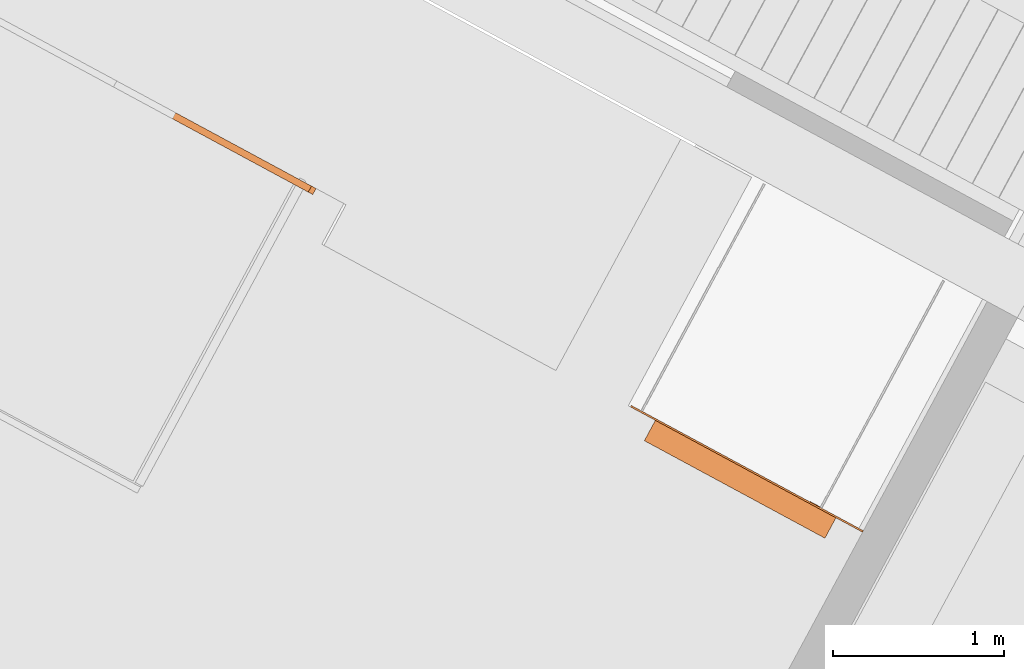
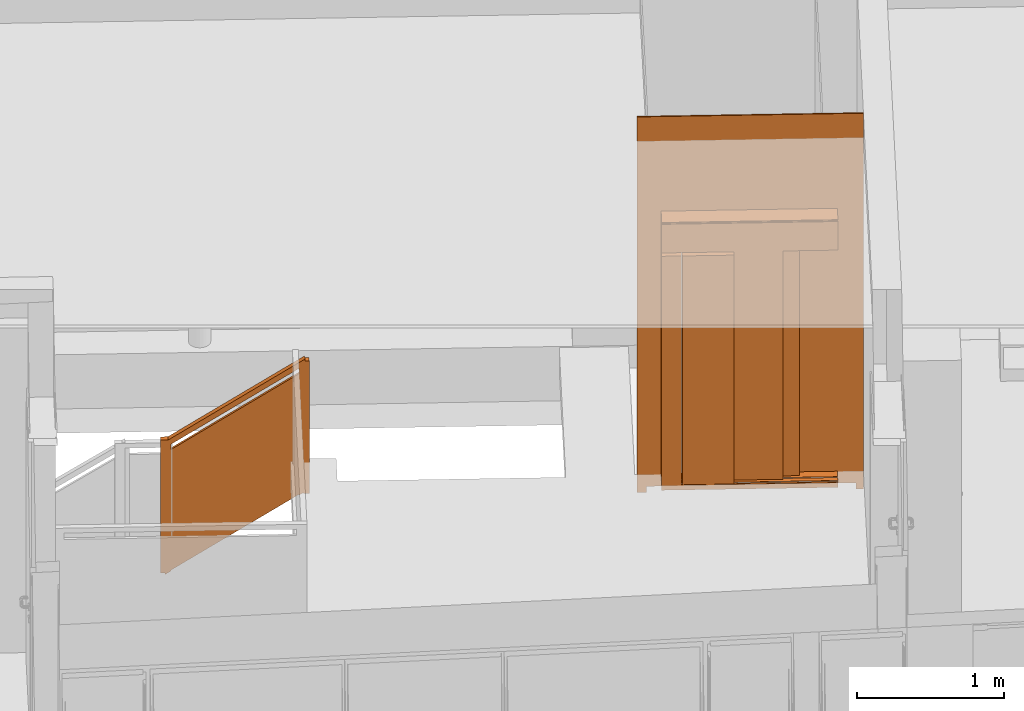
# One storey, part 44 of 48: 3 proxies, 1 opening.
"""IFC2X3 building model written with IfcOpenShell, lengths in metres."""

from ifc_helpers import new_model, entity, si_unit, converted_unit, derived_unit, money_unit, direction, frame, origin_with_axes, origin_2d_with_axis, place, context, subcontext, project, spatial, rectangle, extrude, open_shell, faceted_brep, surface_model, material, material_list, type_object, element, fill, save


model = new_model("IFC2X3")

# Units and contexts
model_context = context("Model", 3, precision=1e-05, world=origin_with_axes(), true_north=direction((0.0, 1.0)))
body_context = subcontext(model_context, "Body", "Model", "MODEL_VIEW")
ifc_project = project(units=[si_unit("LENGTHUNIT", "METRE"), si_unit("AREAUNIT", "SQUARE_METRE"), si_unit("VOLUMEUNIT", "CUBIC_METRE"), converted_unit("PLANEANGLEUNIT", "DEGREE", entity("IfcPlaneAngleMeasure", 0.0174532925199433), si_unit("PLANEANGLEUNIT", "RADIAN"), dimensions=[0, 0, 0, 0, 0, 0, 0]), money_unit("EUR"), converted_unit("TIMEUNIT", "Year", entity("IfcTimeMeasure", 31556926.0), si_unit("TIMEUNIT", "SECOND"), dimensions=[0, 0, 1, 0, 0, 0, 0]), si_unit("MASSUNIT", "GRAM", prefix="KILO"), si_unit("THERMODYNAMICTEMPERATUREUNIT", "DEGREE_CELSIUS"), si_unit("LUMINOUSINTENSITYUNIT", "LUMEN"), si_unit("ENERGYUNIT", "JOULE", prefix="MEGA"), derived_unit("THERMALCONDUCTANCEUNIT", [(si_unit("POWERUNIT", "WATT"), 1), (si_unit("LENGTHUNIT", "METRE"), -1), (si_unit("THERMODYNAMICTEMPERATUREUNIT", "KELVIN"), -1)]), derived_unit("SPECIFICHEATCAPACITYUNIT", [(si_unit("ENERGYUNIT", "JOULE"), 1), (si_unit("MASSUNIT", "GRAM", prefix="KILO"), -1), (si_unit("THERMODYNAMICTEMPERATUREUNIT", "KELVIN"), -1)]), derived_unit("MASSDENSITYUNIT", [(si_unit("MASSUNIT", "GRAM", prefix="KILO"), 1), (si_unit("VOLUMEUNIT", "CUBIC_METRE"), -1)])], contexts=[model_context])

# Site, building, storey
site_placement = place(None, frame((-3.949935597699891, 1.740105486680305, 0.0), z_axis=(0.0, 0.0, 1.0), x_axis=(0.8799804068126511, -0.475009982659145, 0.0)))
site = spatial("IfcSite", under=ifc_project, at=site_placement, Name="Gelände", CompositionType="ELEMENT")
building_placement = place(site_placement, origin_with_axes())
building = spatial("IfcBuilding", under=site, at=building_placement, Name="Gebäude", CompositionType="ELEMENT")
storey_placement = place(building_placement, frame((0.0, 0.0, 4.55), z_axis=(0.0, 0.0, 1.0), x_axis=(1.0, 0.0, 0.0)))
storey = spatial("IfcBuildingStorey", under=building, at=storey_placement, Name="Staffelgeschoss", CompositionType="ELEMENT", Elevation=4.55)

# Proxies, opening
ifc_material_1 = material(Name="Glas, Normalglas")
building_element_proxy_type_1 = type_object("IfcBuildingElementProxyType", Name="Glas, Normalglas 10", PredefinedType="NOTDEFINED")
proxy_1_placement = place(storey_placement, frame((15.62880693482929, 9.127799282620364, -0.1500000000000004), z_axis=(0.0, 0.0, 1.0), x_axis=(0.9999999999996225, 8.689518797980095e-07, 0.0)))
proxy_1 = element("IfcBuildingElementProxy", 1, at=proxy_1_placement, inside=storey, type_object=building_element_proxy_type_1, material=ifc_material_1, Name="I-Wand037", context=body_context, shape_type="Brep", body=[
    faceted_brep([(0.0636884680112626, 3.474075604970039e-08, 0.05000000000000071), (1.488486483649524, -1.203340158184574e-06, 0.05000000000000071), (1.488486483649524, -1.203340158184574e-06, 0.0), (1.538686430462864, -1.337044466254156e-06, 0.0), (1.538686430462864, -1.337044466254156e-06, 3.114), (0.0, 0.0, 3.114), (0.0, 0.0, 0.0), (0.06368846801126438, 3.474075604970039e-08, 0.0), (0.184239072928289, -1.600948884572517e-07, 0.1500000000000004), (0.184239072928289, -1.600948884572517e-07, 2.2), (1.084239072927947, -9.421515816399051e-07, 2.2), (1.084239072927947, -9.421515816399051e-07, 0.1500000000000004), (0.06368847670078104, 0.01000003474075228, 0.05000000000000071), (1.488486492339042, 0.00999879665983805, 0.05000000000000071), (1.488486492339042, 0.00999879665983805, 0.0), (1.538686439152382, 0.00999866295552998, 0.0), (1.538686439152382, 0.00999866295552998, 3.114), (8.689518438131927e-09, 0.009999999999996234, 3.114), (8.689518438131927e-09, 0.009999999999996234, 0.0), (0.06368847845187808, 0.01000003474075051, 0.0), (0.1842390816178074, 0.009999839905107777, 0.1500000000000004), (0.1842390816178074, 0.009999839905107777, 2.2), (1.084239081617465, 0.009999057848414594, 2.2), (1.084239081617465, 0.009999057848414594, 0.1500000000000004)], [[[0, 1, 2, 3, 4, 5, 6, 7], [8, 9, 10, 11]], [[0, 12, 13, 1]], [[1, 13, 14, 2]], [[3, 2, 14, 15]], [[16, 4, 3, 15]], [[4, 16, 17, 5]], [[5, 17, 18, 6]], [[18, 19, 7, 6]], [[7, 19, 12, 0]], [[20, 21, 9, 8]], [[21, 22, 10, 9]], [[22, 23, 11, 10]], [[23, 20, 8, 11]], [[13, 12, 19, 18, 17, 16, 15, 14], [20, 23, 22, 21]]]),
])
opening_placement = place(proxy_1_placement, frame((0.6342390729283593, 0.0, 0.1500000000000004), z_axis=(0.0, 0.0, 1.0), x_axis=(1.0, 0.0, 0.0)))
opening = element("IfcOpeningElement", 2, at=opening_placement, cuts=proxy_1, Name="Tür-011", context=body_context, shape_type="SweptSolid", body=[
    extrude(rectangle(XDim=0.9000000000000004, YDim=2.05, at=origin_2d_with_axis()), frame((8.689756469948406e-09, 0.009999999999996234, 1.024999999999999), z_axis=(8.689518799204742e-07, 0.9999999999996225, 0.0), x_axis=(0.9999999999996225, -8.689518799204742e-07, 0.0)), (0.0, 0.0, -1.0), 0.03),
])
building_element_proxy_type_2 = type_object("IfcBuildingElementProxyType", Name="Teleskoptür 22", PredefinedType="NOTDEFINED")
proxy_2_placement = place(opening_placement, frame((0.4499999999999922, 0.0, 0.0), z_axis=(0.0, 0.0, 1.0), x_axis=(-1.0, 0.0, 0.0)))
proxy_2 = element("IfcBuildingElementProxy", 3, at=proxy_2_placement, inside=storey, type_object=building_element_proxy_type_2, Name="Tür-011", context=body_context, shape_type="SurfaceModel", body=[
    faceted_brep([(-0.2774999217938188, 0.09000118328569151, 1.899999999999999), (-0.2774999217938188, 0.09000118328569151, 1.938), (0.9200000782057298, 0.09000014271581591, 1.938), (0.9200000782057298, 0.09000014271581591, 1.899999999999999), (-0.2774999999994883, 1.183285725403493e-06, 1.899999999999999), (-0.2774999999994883, 1.183285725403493e-06, 2.18), (-0.2774998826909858, 0.1350011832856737, 2.18), (-0.2774998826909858, 0.1350011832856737, 2.177), (-0.2774999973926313, 0.003001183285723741, 2.177), (-0.2774999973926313, 0.003001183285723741, 1.903), (-0.2774999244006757, 0.0870011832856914, 1.903), (-0.2774999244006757, 0.0870011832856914, 1.938), (0.9200000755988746, 0.0870001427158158, 1.938), (0.9200000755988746, 0.0870001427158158, 1.903), (0.9200000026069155, 0.003000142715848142, 1.903), (0.9200000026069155, 0.003000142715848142, 2.177), (0.9200001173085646, 0.1350001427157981, 2.177), (0.9200001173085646, 0.1350001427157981, 2.18), (0.9200000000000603, 1.42715849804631e-07, 2.18), (0.9200000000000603, 1.42715849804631e-07, 1.899999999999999)], [[[0, 1, 2, 3]], [[0, 4, 5, 6, 7, 8, 9, 10, 11, 1]], [[1, 11, 12, 2]], [[3, 2, 12, 13, 14, 15, 16, 17, 18, 19]], [[4, 0, 3, 19]], [[5, 4, 19, 18]], [[6, 5, 18, 17]], [[7, 6, 17, 16]], [[8, 7, 16, 15]], [[9, 8, 15, 14]], [[10, 9, 14, 13]], [[11, 10, 13, 12]]]),
    faceted_brep([(-0.2774999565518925, 0.05000118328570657, 1.903), (-0.2774999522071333, 0.0550011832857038, 1.903), (0.9200000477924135, 0.0550001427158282, 1.903), (0.9200000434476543, 0.0500001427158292, 1.903), (-0.2774999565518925, 0.05000118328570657, 2.14), (-0.2774999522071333, 0.0550011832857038, 2.14), (0.9200000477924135, 0.0550001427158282, 2.14), (0.9200000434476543, 0.0500001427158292, 2.14)], [[[0, 1, 2, 3]], [[0, 4, 5, 1]], [[1, 5, 6, 2]], [[3, 2, 6, 7]], [[4, 0, 3, 7]], [[5, 4, 7, 6]]]),
    faceted_brep([(-0.2774999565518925, 0.05000118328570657, 2.13), (-0.2774999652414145, 0.04000118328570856, 2.13), (0.9200000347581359, 0.04000014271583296, 2.13), (0.9200000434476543, 0.0500001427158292, 2.13), (-0.2774999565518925, 0.05000118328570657, 2.069999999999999), (-0.2774999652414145, 0.04000118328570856, 2.069999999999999), (0.9200000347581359, 0.04000014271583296, 2.069999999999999), (0.9200000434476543, 0.0500001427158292, 2.069999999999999)], [[[0, 1, 2, 3]], [[0, 4, 5, 1]], [[1, 5, 6, 2]], [[3, 2, 6, 7]], [[4, 0, 3, 7]], [[5, 4, 7, 6]]]),
    faceted_brep([(-0.2774999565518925, 0.05000118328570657, 2.0), (-0.2774999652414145, 0.04000118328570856, 2.0), (0.9200000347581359, 0.04000014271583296, 2.0), (0.9200000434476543, 0.0500001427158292, 2.0), (-0.2774999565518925, 0.05000118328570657, 1.96), (-0.2774999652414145, 0.04000118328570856, 1.96), (0.9200000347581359, 0.04000014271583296, 1.96), (0.9200000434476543, 0.0500001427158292, 1.96)], [[[0, 1, 2, 3]], [[0, 4, 5, 1]], [[1, 5, 6, 2]], [[3, 2, 6, 7]], [[4, 0, 3, 7]], [[5, 4, 7, 6]]]),
    faceted_brep([(-0.2774999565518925, 0.05000118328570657, 2.069999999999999), (-0.277499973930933, 0.03000118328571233, 2.069999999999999), (0.9200000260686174, 0.03000014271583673, 2.069999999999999), (0.9200000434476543, 0.0500001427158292, 2.069999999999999), (-0.2774999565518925, 0.05000118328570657, 2.0), (-0.277499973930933, 0.03000118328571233, 2.0), (0.9200000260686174, 0.03000014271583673, 2.0), (0.9200000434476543, 0.0500001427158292, 2.0)], [[[0, 1, 2, 3]], [[0, 4, 5, 1]], [[1, 5, 6, 2]], [[3, 2, 6, 7]], [[4, 0, 3, 7]], [[5, 4, 7, 6]]]),
    faceted_brep([(-0.2774999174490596, 0.09500118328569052, 1.903), (-0.2774999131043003, 0.1000011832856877, 1.903), (0.9200000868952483, 0.1000001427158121, 1.903), (0.920000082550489, 0.09500014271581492, 1.903), (-0.2774999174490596, 0.09500118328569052, 2.14), (-0.2774999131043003, 0.1000011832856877, 2.14), (0.9200000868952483, 0.1000001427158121, 2.14), (0.920000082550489, 0.09500014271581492, 2.14)], [[[0, 1, 2, 3]], [[0, 4, 5, 1]], [[1, 5, 6, 2]], [[3, 2, 6, 7]], [[4, 0, 3, 7]], [[5, 4, 7, 6]]]),
    faceted_brep([(-0.2774999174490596, 0.09500118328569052, 2.13), (-0.277499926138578, 0.0850011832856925, 2.13), (0.9200000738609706, 0.0850001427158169, 2.13), (0.920000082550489, 0.09500014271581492, 2.13), (-0.2774999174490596, 0.09500118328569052, 2.069999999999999), (-0.277499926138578, 0.0850011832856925, 2.069999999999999), (0.9200000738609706, 0.0850001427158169, 2.069999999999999), (0.920000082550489, 0.09500014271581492, 2.069999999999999)], [[[0, 1, 2, 3]], [[0, 4, 5, 1]], [[1, 5, 6, 2]], [[3, 2, 6, 7]], [[4, 0, 3, 7]], [[5, 4, 7, 6]]]),
    faceted_brep([(-0.2774999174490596, 0.09500118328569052, 2.0), (-0.277499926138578, 0.0850011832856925, 2.0), (0.9200000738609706, 0.0850001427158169, 2.0), (0.920000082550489, 0.09500014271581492, 2.0), (-0.2774999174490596, 0.09500118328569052, 1.96), (-0.277499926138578, 0.0850011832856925, 1.96), (0.9200000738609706, 0.0850001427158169, 1.96), (0.920000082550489, 0.09500014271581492, 1.96)], [[[0, 1, 2, 3]], [[0, 4, 5, 1]], [[1, 5, 6, 2]], [[3, 2, 6, 7]], [[4, 0, 3, 7]], [[5, 4, 7, 6]]]),
    faceted_brep([(-0.2774999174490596, 0.09500118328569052, 2.069999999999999), (-0.2774999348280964, 0.07500118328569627, 2.069999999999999), (0.9200000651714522, 0.07500014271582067, 2.069999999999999), (0.920000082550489, 0.09500014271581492, 2.069999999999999), (-0.2774999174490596, 0.09500118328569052, 2.0), (-0.2774999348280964, 0.07500118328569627, 2.0), (0.9200000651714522, 0.07500014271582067, 2.0), (0.920000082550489, 0.09500014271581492, 2.0)], [[[0, 1, 2, 3]], [[0, 4, 5, 1]], [[1, 5, 6, 2]], [[3, 2, 6, 7]], [[4, 0, 3, 7]], [[5, 4, 7, 6]]]),
    faceted_brep([(-0.2774999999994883, 1.183285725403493e-06, 0.0), (-0.2774999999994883, 1.183285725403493e-06, -0.04000000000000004), (0.9200000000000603, 1.42715849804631e-07, -0.04000000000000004), (0.9200000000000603, 1.42715849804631e-07, 0.0), (-0.2774999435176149, 0.06500118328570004, 0.0), (-0.2774999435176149, 0.06500118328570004, -0.009999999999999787), (-0.2774999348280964, 0.07500118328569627, -0.009999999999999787), (-0.2774999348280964, 0.07500118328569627, 0.0), (-0.2774999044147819, 0.1100011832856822, 0.0), (-0.2774999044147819, 0.1100011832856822, -0.009999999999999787), (-0.2774998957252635, 0.1200011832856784, -0.009999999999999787), (-0.2774998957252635, 0.1200011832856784, 0.0), (-0.2774998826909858, 0.1350011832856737, 0.0), (-0.2774998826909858, 0.1350011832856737, -0.04000000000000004), (0.9200001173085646, 0.1350001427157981, -0.04000000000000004), (0.9200001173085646, 0.1350001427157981, 0.0), (0.9200001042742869, 0.1200001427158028, 0.0), (0.9200001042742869, 0.1200001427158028, -0.009999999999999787), (0.9200000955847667, 0.1100001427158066, -0.009999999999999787), (0.9200000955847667, 0.1100001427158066, 0.0), (0.9200000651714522, 0.07500014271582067, 0.0), (0.9200000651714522, 0.07500014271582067, -0.009999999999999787), (0.920000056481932, 0.06500014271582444, -0.009999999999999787), (0.920000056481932, 0.06500014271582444, 0.0)], [[[0, 1, 2, 3]], [[0, 4, 5, 6, 7, 8, 9, 10, 11, 12, 13, 1]], [[1, 13, 14, 2]], [[3, 2, 14, 15, 16, 17, 18, 19, 20, 21, 22, 23]], [[4, 0, 3, 23]], [[5, 4, 23, 22]], [[6, 5, 22, 21]], [[7, 6, 21, 20]], [[8, 7, 20, 19]], [[9, 8, 19, 18]], [[10, 9, 18, 17]], [[11, 10, 17, 16]], [[12, 11, 16, 15]], [[13, 12, 15, 14]]]),
    faceted_brep([(0.1150000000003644, 8.422221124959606e-07, 0.0), (0.1150000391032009, 0.04500084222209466, 0.0), (0.1150000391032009, 0.04500084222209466, 1.899999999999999), (0.1150000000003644, 8.422221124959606e-07, 1.899999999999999), (-0.01999999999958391, 9.59530616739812e-07, 0.0), (-0.01999996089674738, 0.04500095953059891, 0.0), (-0.01999996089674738, 0.04500095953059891, 1.899999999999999), (-0.01999999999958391, 9.59530616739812e-07, 1.899999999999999)], [[[0, 1, 2, 3]], [[0, 4, 5, 1]], [[1, 5, 6, 2]], [[3, 2, 6, 7]], [[4, 0, 3, 7]], [[5, 4, 7, 6]]]),
    faceted_brep([(0.9200000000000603, 1.42715849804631e-07, 0.0), (0.9200001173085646, 0.1350001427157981, 0.0), (0.9200001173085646, 0.1350001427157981, 1.899999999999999), (0.9200000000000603, 1.42715849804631e-07, 1.899999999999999), (0.785000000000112, 2.600243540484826e-07, 0.0), (0.7850001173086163, 0.1350002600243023, 0.0), (0.7850001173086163, 0.1350002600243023, 1.899999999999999), (0.785000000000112, 2.600243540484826e-07, 1.899999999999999)], [[[0, 1, 2, 3]], [[0, 4, 5, 1]], [[1, 5, 6, 2]], [[3, 2, 6, 7]], [[4, 0, 3, 7]], [[5, 4, 7, 6]]]),
    faceted_brep([(-0.1800000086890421, -0.009998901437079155, 0.7999999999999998), (-0.1000000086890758, -0.009998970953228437, 0.7999999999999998), (-0.1000000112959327, -0.01299897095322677, 0.7999999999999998), (-0.180000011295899, -0.01299890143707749, 0.7999999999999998), (-0.1800000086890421, -0.009998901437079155, 1.06), (-0.1000000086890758, -0.009998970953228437, 1.06), (-0.1700000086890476, -0.009998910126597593, 1.03), (-0.1700000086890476, -0.009998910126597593, 0.9400000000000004), (-0.1100000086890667, -0.009998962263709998, 0.9400000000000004), (-0.1100000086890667, -0.009998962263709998, 1.03), (-0.1500000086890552, -0.00999892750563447, 0.8399999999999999), (-0.1300000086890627, -0.009998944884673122, 0.8399999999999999), (-0.1300000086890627, -0.009998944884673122, 0.8600000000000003), (-0.1500000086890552, -0.00999892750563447, 0.8600000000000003), (-0.1500000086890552, -0.00999892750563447, 0.8799999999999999), (-0.1300000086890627, -0.009998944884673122, 0.8799999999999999), (-0.1300000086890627, -0.009998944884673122, 0.9000000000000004), (-0.1500000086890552, -0.00999892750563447, 0.9000000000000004), (-0.1000000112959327, -0.01299897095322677, 1.06), (-0.180000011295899, -0.01299890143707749, 1.06), (-0.1700000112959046, -0.01299891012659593, 1.03), (-0.1100000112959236, -0.01299896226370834, 1.03), (-0.1100000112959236, -0.01299896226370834, 0.9400000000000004), (-0.1700000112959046, -0.01299891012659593, 0.9400000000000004), (-0.1500000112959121, -0.01299892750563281, 0.8399999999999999), (-0.1500000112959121, -0.01299892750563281, 0.8600000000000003), (-0.1300000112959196, -0.01299894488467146, 0.8600000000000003), (-0.1300000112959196, -0.01299894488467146, 0.8399999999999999), (-0.1500000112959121, -0.01299892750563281, 0.8799999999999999), (-0.1500000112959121, -0.01299892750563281, 0.9000000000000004), (-0.1300000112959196, -0.01299894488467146, 0.9000000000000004), (-0.1300000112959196, -0.01299894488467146, 0.8799999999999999)], [[[0, 1, 2, 3]], [[0, 4, 5, 1], [6, 7, 8, 9], [10, 11, 12, 13], [14, 15, 16, 17]], [[1, 5, 18, 2]], [[3, 2, 18, 19], [20, 21, 22, 23], [24, 25, 26, 27], [28, 29, 30, 31]], [[4, 0, 3, 19]], [[5, 4, 19, 18]], [[7, 6, 20, 23]], [[8, 7, 23, 22]], [[9, 8, 22, 21]], [[6, 9, 21, 20]], [[11, 10, 24, 27]], [[12, 11, 27, 26]], [[13, 12, 26, 25]], [[10, 13, 25, 24]], [[15, 14, 28, 31]], [[16, 15, 31, 30]], [[17, 16, 30, 29]], [[14, 17, 29, 28]]]),
    faceted_brep([(-0.1700000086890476, -0.009998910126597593, 0.9400000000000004), (-0.1100000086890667, -0.009998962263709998, 0.9400000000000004), (-0.1100000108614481, -0.0124989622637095, 0.9400000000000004), (-0.170000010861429, -0.0124989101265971, 0.9400000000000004), (-0.1700000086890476, -0.009998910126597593, 1.03), (-0.1100000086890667, -0.009998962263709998, 1.03), (-0.1100000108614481, -0.0124989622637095, 1.03), (-0.170000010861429, -0.0124989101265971, 1.03)], [[[0, 1, 2, 3]], [[0, 4, 5, 1]], [[1, 5, 6, 2]], [[3, 2, 6, 7]], [[4, 0, 3, 7]], [[5, 4, 7, 6]]]),
    surface_model("IfcShellBasedSurfaceModel", [(-0.1560000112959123, -0.01299892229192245, 1.005), (-0.1500000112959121, -0.01299892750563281, 1.021), (-0.1440000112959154, -0.01299893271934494, 1.005)], [open_shell([[[0, 1, 2]]])]),
    surface_model("IfcShellBasedSurfaceModel", [(-0.1300000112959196, -0.01299894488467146, 1.005), (-0.1360000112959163, -0.01299893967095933, 1.021), (-0.124000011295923, -0.01299895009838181, 1.021)], [open_shell([[[0, 1, 2]]])]),
    surface_model("IfcShellBasedSurfaceModel", [(-0.1427272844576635, -0.013498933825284, 0.9820000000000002), (-0.1427272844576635, -0.013498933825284, 0.9716363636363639), (-0.1440909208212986, -0.01349893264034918, 0.9702727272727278), (-0.1454545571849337, -0.01349893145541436, 0.9716363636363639), (-0.1454545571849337, -0.01349893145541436, 0.9820000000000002), (-0.1440909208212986, -0.01349893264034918, 0.9833636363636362)], [open_shell([[[0, 1, 2, 3, 4, 5]]])]),
    surface_model("IfcShellBasedSurfaceModel", [(-0.1427272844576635, -0.013498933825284, 0.9683636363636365), (-0.1427272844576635, -0.013498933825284, 0.9580000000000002), (-0.1440909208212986, -0.01349893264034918, 0.9566363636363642), (-0.1454545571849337, -0.01349893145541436, 0.9580000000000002), (-0.1454545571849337, -0.01349893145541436, 0.9683636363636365), (-0.1440909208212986, -0.01349893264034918, 0.9697272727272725)], [open_shell([[[0, 1, 2, 3, 4, 5]]])]),
    surface_model("IfcShellBasedSurfaceModel", [(-0.1239091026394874, -0.01349895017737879, 0.9822727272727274), (-0.1342727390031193, -0.01349894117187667, 0.9822727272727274), (-0.135636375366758, -0.01349893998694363, 0.9836363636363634), (-0.1342727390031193, -0.01349894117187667, 0.9850000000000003), (-0.1239091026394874, -0.01349895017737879, 0.9850000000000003), (-0.1225454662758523, -0.0134989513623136, 0.9836363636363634)], [open_shell([[[0, 1, 2, 3, 4, 5]]])]),
    surface_model("IfcShellBasedSurfaceModel", [(-0.1209091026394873, -0.01349895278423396, 0.9820000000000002), (-0.1209091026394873, -0.01349895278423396, 0.9716363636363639), (-0.122272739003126, -0.01349895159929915, 0.9702727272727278), (-0.1236363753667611, -0.01349895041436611, 0.9716363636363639), (-0.1236363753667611, -0.01349895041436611, 0.9820000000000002), (-0.122272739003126, -0.01349895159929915, 0.9833636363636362)], [open_shell([[[0, 1, 2, 3, 4, 5]]])]),
    surface_model("IfcShellBasedSurfaceModel", [(-0.1239091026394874, -0.01349895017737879, 0.9686363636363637), (-0.1342727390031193, -0.01349894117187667, 0.9686363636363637), (-0.135636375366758, -0.01349893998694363, 0.9699999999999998), (-0.1342727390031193, -0.01349894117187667, 0.9713636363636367), (-0.1239091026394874, -0.01349895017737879, 0.9713636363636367), (-0.1225454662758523, -0.0134989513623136, 0.9699999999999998)], [open_shell([[[0, 1, 2, 3, 4, 5]]])]),
    surface_model("IfcShellBasedSurfaceModel", [(-0.1345454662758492, -0.01349894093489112, 0.9683636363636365), (-0.1345454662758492, -0.01349894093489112, 0.9580000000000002), (-0.1359091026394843, -0.01349893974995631, 0.9566363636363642), (-0.1372727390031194, -0.01349893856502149, 0.9580000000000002), (-0.1372727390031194, -0.01349893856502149, 0.9683636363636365), (-0.1359091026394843, -0.01349893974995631, 0.9697272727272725)], [open_shell([[[0, 1, 2, 3, 4, 5]]])]),
    surface_model("IfcShellBasedSurfaceModel", [(-0.1239091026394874, -0.01349895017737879, 0.9550000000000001), (-0.1342727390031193, -0.01349894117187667, 0.9550000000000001), (-0.135636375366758, -0.01349893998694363, 0.9563636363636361), (-0.1342727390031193, -0.01349894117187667, 0.957727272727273), (-0.1239091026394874, -0.01349895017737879, 0.957727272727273), (-0.1225454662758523, -0.0134989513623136, 0.9563636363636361)], [open_shell([[[0, 1, 2, 3, 4, 5]]])]),
    faceted_brep([(-0.1300000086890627, -0.009998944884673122, 0.8399999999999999), (-0.1500000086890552, -0.00999892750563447, 0.8399999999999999), (-0.1500000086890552, -0.00999892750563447, 0.8600000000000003), (-0.1300000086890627, -0.009998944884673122, 0.8600000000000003), (-0.1300000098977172, -0.01149894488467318, 0.8399999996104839), (-0.1500000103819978, -0.01149892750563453, 0.8399999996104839), (-0.1500000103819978, -0.01149892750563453, 0.8600000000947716), (-0.1300000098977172, -0.01149894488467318, 0.8600000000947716), (-0.131400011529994, -0.01289894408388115, 0.8414000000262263), (-0.1486000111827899, -0.0128989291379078, 0.8414000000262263), (-0.1486000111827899, -0.0128989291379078, 0.8585999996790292), (-0.131400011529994, -0.01289894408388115, 0.8585999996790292)], [[[0, 1, 2, 3]], [[1, 0, 4, 5]], [[2, 1, 5, 6]], [[3, 2, 6, 7]], [[0, 3, 7, 4]], [[5, 4, 8, 9]], [[6, 5, 9, 10]], [[7, 6, 10, 11]], [[4, 7, 11, 8]], [[10, 9, 8, 11]]]),
    surface_model("IfcShellBasedSurfaceModel", [(-0.1350000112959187, -0.01299894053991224, 0.8550000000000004), (-0.1400000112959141, -0.01299893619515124, 0.8440000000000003), (-0.1450000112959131, -0.01299893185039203, 0.8550000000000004)], [open_shell([[[0, 1, 2]]])]),
    faceted_brep([(-0.1300000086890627, -0.009998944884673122, 0.8799999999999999), (-0.1500000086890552, -0.00999892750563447, 0.8799999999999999), (-0.1500000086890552, -0.00999892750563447, 0.9000000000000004), (-0.1300000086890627, -0.009998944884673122, 0.9000000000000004), (-0.1300000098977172, -0.01149894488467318, 0.8799999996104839), (-0.1500000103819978, -0.01149892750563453, 0.8799999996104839), (-0.1500000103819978, -0.01149892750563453, 0.9000000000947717), (-0.1300000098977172, -0.01149894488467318, 0.9000000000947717), (-0.131400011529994, -0.01289894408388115, 0.8814000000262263), (-0.1486000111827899, -0.0128989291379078, 0.8814000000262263), (-0.1486000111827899, -0.0128989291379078, 0.8985999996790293), (-0.131400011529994, -0.01289894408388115, 0.8985999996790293)], [[[0, 1, 2, 3]], [[1, 0, 4, 5]], [[2, 1, 5, 6]], [[3, 2, 6, 7]], [[0, 3, 7, 4]], [[5, 4, 8, 9]], [[6, 5, 9, 10]], [[7, 6, 10, 11]], [[4, 7, 11, 8]], [[10, 9, 8, 11]]]),
    surface_model("IfcShellBasedSurfaceModel", [(-0.1350000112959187, -0.01299894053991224, 0.8849999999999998), (-0.1450000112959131, -0.01299893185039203, 0.8849999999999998), (-0.1400000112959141, -0.01299893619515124, 0.8959999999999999)], [open_shell([[[0, 1, 2]]])]),
    faceted_brep([(0.4275000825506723, 0.09500057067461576, 0.003000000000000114), (0.427500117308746, 0.1350005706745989, 0.003000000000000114), (0.7800001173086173, 0.1350002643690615, 0.003000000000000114), (0.7800000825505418, 0.09500026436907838, 0.003000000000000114), (0.4275000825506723, 0.09500057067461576, 1.899999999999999), (0.427500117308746, 0.1350005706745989, 1.899999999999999), (0.7800001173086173, 0.1350002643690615, 1.899999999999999), (0.7800000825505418, 0.09500026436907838, 1.899999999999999)], [[[0, 1, 2, 3]], [[4, 5, 1, 0]], [[1, 5, 6, 2]], [[3, 2, 6, 7]], [[0, 3, 7, 4]], [[7, 6, 5, 4]]]),
    faceted_brep([(0.09500004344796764, 0.05000085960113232, 0.003000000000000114), (0.0950000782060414, 0.09000085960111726, 0.003000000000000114), (0.4475000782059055, 0.09000055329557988, 0.003000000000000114), (0.4475000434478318, 0.05000055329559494, 0.003000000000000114), (0.09500004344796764, 0.05000085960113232, 1.899999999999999), (0.0950000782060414, 0.09000085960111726, 1.899999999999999), (0.4475000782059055, 0.09000055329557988, 1.899999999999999), (0.4475000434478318, 0.05000055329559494, 1.899999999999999)], [[[0, 1, 2, 3]], [[4, 5, 1, 0]], [[1, 5, 6, 2]], [[3, 2, 6, 7]], [[0, 3, 7, 4]], [[7, 6, 5, 4]]]),
])
fill(opening, proxy_2)

# Proxy
ifc_material_2 = material(Name="Metall, Stahl lackiert")
ifc_material_3 = material(Name="Glas, Normalglas-50% durchlässig")
ifc_material_list = material_list([ifc_material_2, ifc_material_2, ifc_material_2, ifc_material_2, ifc_material_2, ifc_material_3])
building_element_proxy_type_3 = type_object("IfcBuildingElementProxyType", Name="Geländerart", PredefinedType="NOTDEFINED")
proxy_3_placement = place(storey_placement, frame((12.20061858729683, 9.357791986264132, -0.8980000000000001), z_axis=(0.0, 0.0, 1.0), x_axis=(1.0, 0.0, 0.0)))
element("IfcBuildingElementProxy", 4, at=proxy_3_placement, inside=storey, type_object=building_element_proxy_type_3, material=ifc_material_list, Name="Geländer-005", context=body_context, shape_type="Brep", body=[
    faceted_brep([(0.268580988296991, -0.01999907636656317, 0.01404279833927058), (0.2685791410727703, 0.02000092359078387, 0.01404279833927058), (0.2685791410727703, 0.02000092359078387, 1.114042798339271), (0.268580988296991, -0.01999907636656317, 1.114042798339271), (0.2285809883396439, -0.02000092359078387, -0.01404279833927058), (0.2285791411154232, 0.01999907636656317, -0.01404279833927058), (0.2285791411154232, 0.01999907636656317, 1.085957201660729), (0.2285809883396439, -0.02000092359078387, 1.085957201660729)], [[[0, 1, 2, 3]], [[0, 4, 5, 1]], [[1, 5, 6, 2]], [[3, 2, 6, 7]], [[4, 0, 3, 7]], [[5, 4, 7, 6]]]),
    faceted_brep([(0.2485791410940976, 0.01999999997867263, 1.1), (0.2612195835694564, 0.02000058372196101, 1.06), (0.2385791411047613, 0.0199995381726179, 1.06), (0.2385791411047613, 0.0199995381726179, 0.0), (0.1985791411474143, 0.01999769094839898, 0.0), (0.1985791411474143, 0.01999769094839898, 1.1), (0.2485809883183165, -0.01999999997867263, 1.1), (0.2612214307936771, -0.01999941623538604, 1.06), (0.238580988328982, -0.02000046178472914, 1.06), (0.238580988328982, -0.02000046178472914, 0.0), (0.198580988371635, -0.02000230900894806, 0.0), (0.198580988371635, -0.02000230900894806, 1.1)], [[[0, 1, 2, 3, 4, 5]], [[0, 6, 7, 1]], [[1, 7, 8, 2]], [[2, 8, 9, 3]], [[4, 3, 9, 10]], [[11, 5, 4, 10]], [[6, 0, 5, 11]], [[7, 6, 11, 10, 9, 8]]]),
    faceted_brep([(1.17772287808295, -0.01995709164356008, 0.6523876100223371), (1.177721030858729, 0.02004290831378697, 0.6523876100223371), (1.177721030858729, 0.02004290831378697, 1.752387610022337), (1.17772287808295, -0.01995709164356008, 1.752387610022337), (1.137722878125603, -0.01995893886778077, 0.6243020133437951), (1.137721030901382, 0.02004106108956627, 0.6243020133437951), (1.137721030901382, 0.02004106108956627, 1.724302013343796), (1.137722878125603, -0.01995893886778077, 1.724302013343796)], [[[0, 1, 2, 3]], [[0, 4, 5, 1]], [[1, 5, 6, 2]], [[3, 2, 6, 7]], [[4, 0, 3, 7]], [[5, 4, 7, 6]]]),
    faceted_brep([(1.157722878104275, -0.01995801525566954, 1.738344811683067), (1.170363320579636, -0.01995743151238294, 1.698344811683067), (1.167722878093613, -0.01995755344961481, 1.698344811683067), (1.167722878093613, -0.01995755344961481, 0.6383448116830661), (1.20772287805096, -0.01995570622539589, 0.6383448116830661), (1.20772287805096, -0.01995570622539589, 1.738344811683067), (1.157721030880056, 0.02004198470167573, 1.738344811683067), (1.170361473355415, 0.0200425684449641, 1.698344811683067), (1.167721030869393, 0.02004244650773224, 1.698344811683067), (1.167721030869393, 0.02004244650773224, 0.6383448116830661), (1.20772103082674, 0.02004429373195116, 0.6383448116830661), (1.20772103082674, 0.02004429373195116, 1.738344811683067)], [[[0, 1, 2, 3, 4, 5]], [[0, 6, 7, 1]], [[1, 7, 8, 2]], [[2, 8, 9, 3]], [[4, 3, 9, 10]], [[11, 5, 4, 10]], [[6, 0, 5, 11]], [[7, 6, 11, 10, 9, 8]]]),
    faceted_brep([(0.2485809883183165, -0.01999999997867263, 1.1), (0.2612214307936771, -0.01999941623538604, 1.06), (1.170363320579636, -0.01995743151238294, 1.698344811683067), (1.157722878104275, -0.01995801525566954, 1.738344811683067), (0.2485791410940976, 0.01999999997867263, 1.1), (0.2612195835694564, 0.02000058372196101, 1.06), (1.170361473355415, 0.0200425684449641, 1.698344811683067), (1.157721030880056, 0.02004198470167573, 1.738344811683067)], [[[0, 1, 2, 3]], [[0, 4, 5, 1]], [[1, 5, 6, 2]], [[3, 2, 6, 7]], [[4, 0, 3, 7]], [[5, 4, 7, 6]]]),
    faceted_brep([(1.157721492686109, 0.01004198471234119, 0.6383448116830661), (0.2485796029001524, 0.009999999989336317, 0.0), (0.2485796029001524, 0.009999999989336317, 0.9999999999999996), (1.157721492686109, 0.01004198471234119, 1.638344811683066), (0.2485805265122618, -0.009999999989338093, 0.0), (1.15772241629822, -0.00995801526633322, 0.6383448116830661), (0.2485805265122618, -0.009999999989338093, 0.9999999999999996), (1.15772241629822, -0.00995801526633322, 1.638344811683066)], [[[0, 1, 2, 3]], [[4, 1, 0, 5]], [[6, 2, 1, 4]], [[3, 2, 6, 7]], [[0, 3, 7, 5]], [[6, 4, 5, 7]]]),
])

save(model, "model.ifc")
